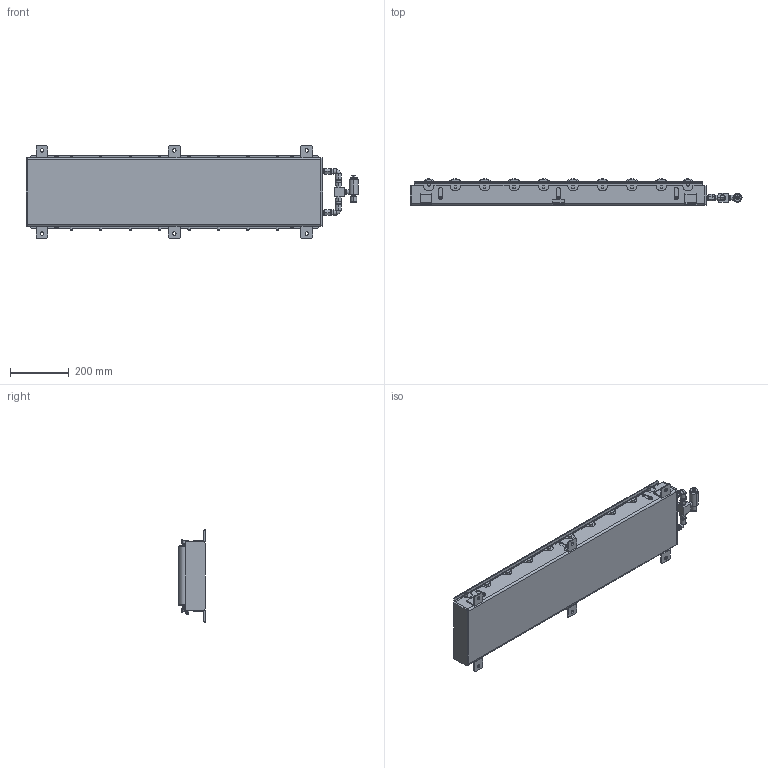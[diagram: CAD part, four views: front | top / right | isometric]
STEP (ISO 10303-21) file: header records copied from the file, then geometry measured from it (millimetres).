
FILE_DESCRIPTION (( 'STEP AP214' ), '1' );
FILE_NAME ('ALR-PR-571008D_L.STEP', '2013-03-20T02:58:03', ( '' ), ( '' ), '', '', '' );
FILE_SCHEMA (( 'AUTOMOTIVE_DESIGN' ));
Length unit declared in the file: millimetre
Products named in the file (16): ブラケット2; 57roller; 38roller; t_box; CB10_12; frame1; frame2; ALR-PR-571008D_L; 配管; SUTE10A_50; APMTY_T3_T3; KQ2L12_03S_2_03; KQ2H12_03S_2_03; 管継手; ASV510F_03_12S; ブラケット1
Assembly tree (43 placements, depth 3):
  ALR-PR-571008D_L
    frame2
    frame1
    CB10_12  x6
    t_box  x8
    38roller  x2
    57roller  x8
    ブラケット2  x2
    ブラケット1  x4
    配管
      ASV510F_03_12S
      管継手
      KQ2H12_03S_2_03  x2
      KQ2L12_03S_2_03  x2
      APMTY_T3_T3  x2
      SUTE10A_50  x2
Bounding box: 1128 x 90.05 x 313 mm (x, y, z)
Volume: 8308397.3 mm3; surface area: 2093866 mm2
Topology: 48 solids, 48 shells, 1500 faces, 3529 edges, 2214 vertices
Faces by surface type: plane 677, cylinder 621, cone 118, torus 48, sphere 32, bspline 4
Entity records: 21418 total; most frequent: CARTESIAN_POINT 4246, DIRECTION 3554, ORIENTED_EDGE 3238, EDGE_CURVE 1619, AXIS2_PLACEMENT_3D 1319, VERTEX_POINT 1051, VECTOR 916, LINE 916
